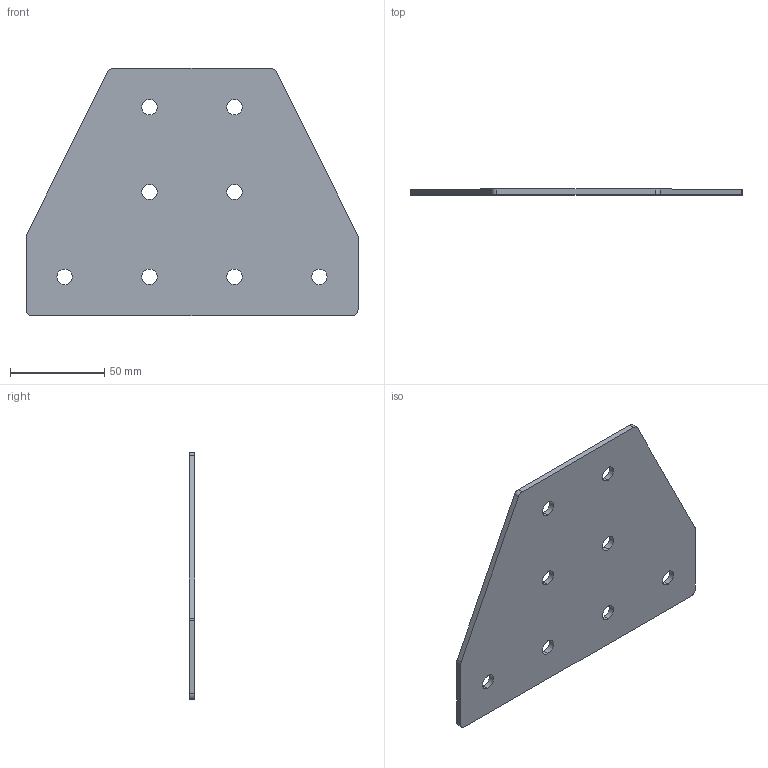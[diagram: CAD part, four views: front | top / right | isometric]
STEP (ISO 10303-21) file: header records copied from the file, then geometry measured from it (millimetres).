
FILE_DESCRIPTION (( 'STEP AP203' ), '1' );
FILE_NAME ('ﾒ-8-ﾓ-45.STEP', '2016-07-22T10:50:48', ( '' ), ( '' ), 'SwSTEP 2.0', 'SolidWorks 2014', '' );
FILE_SCHEMA (( 'CONFIG_CONTROL_DESIGN' ));
Length unit declared in the file: millimetre
Products named in the file (1): ﾒ-8-ﾓ-45
Bounding box: 176 x 3 x 131 mm (x, y, z)
Surface area: 39676.8 mm2 (no closed solid volume)
Topology: 0 solids, 1 shells, 30 faces, 84 edges, 56 vertices
Faces by surface type: cylinder 22, plane 8
Entity records: 1101 total; most frequent: DIRECTION 190, CARTESIAN_POINT 171, ORIENTED_EDGE 168, EDGE_CURVE 84, AXIS2_PLACEMENT_3D 75, VERTEX_POINT 56, EDGE_LOOP 46, CIRCLE 44
